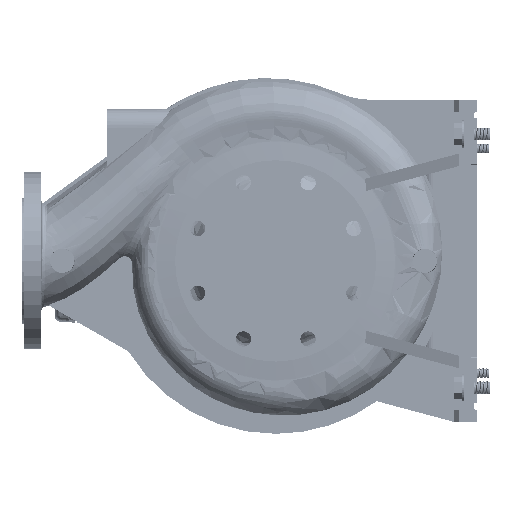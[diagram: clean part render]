
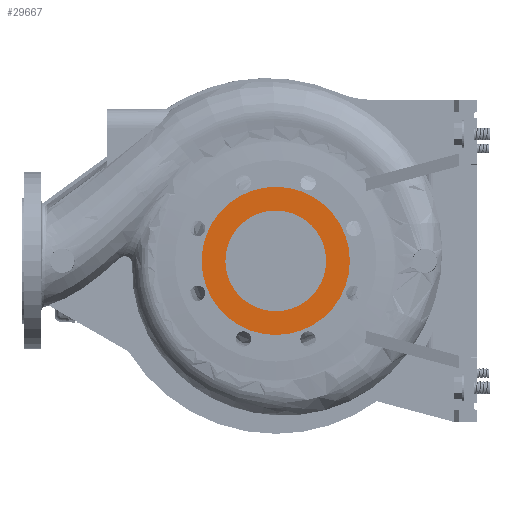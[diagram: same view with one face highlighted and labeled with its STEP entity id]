
A CAD part, left-side view. The second image highlights one B-rep face of the part: STEP entity #29667.
In plain terms, the highlighted planar face has unit normal (-1, 0, 0).
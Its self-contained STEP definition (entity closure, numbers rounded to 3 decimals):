
#665 = EDGE_CURVE ( 'NONE', #159132, #67296, #60629, .T. ) ;
#5657 = CARTESIAN_POINT ( 'NONE',  ( -140., -57.028, -25.59 ) ) ;
#12291 = FACE_BOUND ( 'NONE', #94403, .T. ) ;
#13869 = CARTESIAN_POINT ( 'NONE',  ( -140., 61.695, -12.27 ) ) ;
#15176 = CARTESIAN_POINT ( 'NONE',  ( -140., 34.947, 52.302 ) ) ;
#16495 = CARTESIAN_POINT ( 'NONE',  ( -140., 0., 62.903 ) ) ;
#17800 = CARTESIAN_POINT ( 'NONE',  ( -140., 12.213, -61.398 ) ) ;
#18944 = VERTEX_POINT ( 'NONE', #34721 ) ;
#20435 = CARTESIAN_POINT ( 'NONE',  ( -140., -56.644, -26.414 ) ) ;
#28058 = B_SPLINE_CURVE_WITH_KNOTS ( 'NONE', 3,
 ( #178261, #54028, #200976, #17800, #99309, #116765, #219756, #197057, #180891, #135513, #115462, #199655, #13869, #95393, #198354, #138138, #176968, #75348, #15176, #179574, #258478, #16495, #156880, #96697, #259800, #76658, #158193, #239773, #56632, #98001, #203582, #145984, #5657, #20435 ),
 .UNSPECIFIED., .F., .F.,
 ( 4, 1, 1, 1, 1, 1, 1, 1, 1, 1, 1, 1, 1, 1, 1, 1, 1, 1, 1, 1, 1, 1, 1, 1, 1, 1, 1, 1, 1, 1, 1, 4 ),
 ( -0.198, -0.192, -0.186, -0.179, -0.173, -0.161, -0.149, -0.142, -0.136, -0.13, -0.124, -0.112, -0.099, -0.087, -0.075, -0.062, -0.05, -0.038, -0.025, -0.013, -0.001, 0.012, 0.024, 0.036, 0.049, 0.061, 0.073, 0.086, 0.098, 0.11, 0.123, 0.125 ),
 .UNSPECIFIED. ) ;
#28385 = CARTESIAN_POINT ( 'NONE',  ( -140., 0., 0. ) ) ;
#29667 = ADVANCED_FACE ( 'NONE', ( #12291, #256873 ), #236891, .F. ) ;
#34721 = CARTESIAN_POINT ( 'NONE',  ( -140., 0., -92. ) ) ;
#35987 = AXIS2_PLACEMENT_3D ( 'NONE', #198661, #138444, #78289 ) ;
#36467 = CARTESIAN_POINT ( 'NONE',  ( -140., 0., 92. ) ) ;
#47041 = CARTESIAN_POINT ( 'NONE',  ( -140., -56.644, -26.414 ) ) ;
#48160 = CARTESIAN_POINT ( 'NONE',  ( -140., 0., -62.5 ) ) ;
#52362 = CARTESIAN_POINT ( 'NONE',  ( -140., 0., 0. ) ) ;
#52874 = VERTEX_POINT ( 'NONE', #36467 ) ;
#54028 = CARTESIAN_POINT ( 'NONE',  ( -140., 2.044, -62.5 ) ) ;
#55045 = DIRECTION ( 'NONE',  ( 1., 0., 0. ) ) ;
#56003 = EDGE_CURVE ( 'NONE', #18944, #52874, #126938, .T. ) ;
#56632 = CARTESIAN_POINT ( 'NONE',  ( -140., -61.694, 12.272 ) ) ;
#60629 = CIRCLE ( 'NONE', #210107, 62.5 ) ;
#67296 = VERTEX_POINT ( 'NONE', #48160 ) ;
#75348 = CARTESIAN_POINT ( 'NONE',  ( -140., 44.479, 44.479 ) ) ;
#76658 = CARTESIAN_POINT ( 'NONE',  ( -140., -44.479, 44.479 ) ) ;
#78289 = DIRECTION ( 'NONE',  ( 0., 0., 1. ) ) ;
#94403 = EDGE_LOOP ( 'NONE', ( #262906, #237800 ) ) ;
#95393 = CARTESIAN_POINT ( 'NONE',  ( -140., 62.903, 0. ) ) ;
#96697 = CARTESIAN_POINT ( 'NONE',  ( -140., -24.072, 58.115 ) ) ;
#98001 = CARTESIAN_POINT ( 'NONE',  ( -140., -62.903, 0. ) ) ;
#99309 = CARTESIAN_POINT ( 'NONE',  ( -140., 18.172, -59.905 ) ) ;
#102954 = DIRECTION ( 'NONE',  ( 0., 0., -1. ) ) ;
#111434 = ORIENTED_EDGE ( 'NONE', *, *, #56003, .T. ) ;
#113484 = EDGE_LOOP ( 'NONE', ( #170220, #111434 ) ) ;
#115462 = CARTESIAN_POINT ( 'NONE',  ( -140., 55.209, -29.509 ) ) ;
#116765 = CARTESIAN_POINT ( 'NONE',  ( -140., 25.878, -57.148 ) ) ;
#117038 = CIRCLE ( 'NONE', #35987, 92. ) ;
#126938 = CIRCLE ( 'NONE', #190893, 92. ) ;
#126965 = EDGE_CURVE ( 'NONE', #52874, #18944, #117038, .T. ) ;
#128634 = DIRECTION ( 'NONE',  ( 1., 0., 0. ) ) ;
#129363 = AXIS2_PLACEMENT_3D ( 'NONE', #238182, #55045, #102954 ) ;
#135513 = CARTESIAN_POINT ( 'NONE',  ( -140., 52.051, -34.779 ) ) ;
#138138 = CARTESIAN_POINT ( 'NONE',  ( -140., 58.115, 24.072 ) ) ;
#138444 = DIRECTION ( 'NONE',  ( -1., 0., 0. ) ) ;
#145984 = CARTESIAN_POINT ( 'NONE',  ( -140., -59.041, -21.017 ) ) ;
#156880 = CARTESIAN_POINT ( 'NONE',  ( -140., -12.272, 61.694 ) ) ;
#158193 = CARTESIAN_POINT ( 'NONE',  ( -140., -52.302, 34.947 ) ) ;
#159132 = VERTEX_POINT ( 'NONE', #47041 ) ;
#170220 = ORIENTED_EDGE ( 'NONE', *, *, #126965, .T. ) ;
#176968 = CARTESIAN_POINT ( 'NONE',  ( -140., 52.302, 34.947 ) ) ;
#178261 = CARTESIAN_POINT ( 'NONE',  ( -140., 0., -62.5 ) ) ;
#179574 = CARTESIAN_POINT ( 'NONE',  ( -140., 24.072, 58.115 ) ) ;
#180891 = CARTESIAN_POINT ( 'NONE',  ( -140., 48.391, -39.714 ) ) ;
#187500 = DIRECTION ( 'NONE',  ( 0., 0., 1. ) ) ;
#190893 = AXIS2_PLACEMENT_3D ( 'NONE', #52362, #212836, #231550 ) ;
#197057 = CARTESIAN_POINT ( 'NONE',  ( -140., 42.895, -45.778 ) ) ;
#198354 = CARTESIAN_POINT ( 'NONE',  ( -140., 61.694, 12.272 ) ) ;
#198661 = CARTESIAN_POINT ( 'NONE',  ( -140., 0., 0. ) ) ;
#199655 = CARTESIAN_POINT ( 'NONE',  ( -140., 58.708, -22.112 ) ) ;
#200976 = CARTESIAN_POINT ( 'NONE',  ( -140., 6.136, -62.299 ) ) ;
#203582 = CARTESIAN_POINT ( 'NONE',  ( -140., -61.695, -12.27 ) ) ;
#210107 = AXIS2_PLACEMENT_3D ( 'NONE', #28385, #128634, #187500 ) ;
#212836 = DIRECTION ( 'NONE',  ( -1., 0., 0. ) ) ;
#219756 = CARTESIAN_POINT ( 'NONE',  ( -140., 34.948, -52.303 ) ) ;
#231550 = DIRECTION ( 'NONE',  ( 0., 0., 1. ) ) ;
#236891 = PLANE ( 'NONE',  #129363 ) ;
#237800 = ORIENTED_EDGE ( 'NONE', *, *, #665, .T. ) ;
#238182 = CARTESIAN_POINT ( 'NONE',  ( -140., 91., -91. ) ) ;
#239773 = CARTESIAN_POINT ( 'NONE',  ( -140., -58.115, 24.072 ) ) ;
#239890 = EDGE_CURVE ( 'NONE', #67296, #159132, #28058, .T. ) ;
#256873 = FACE_OUTER_BOUND ( 'NONE', #113484, .T. ) ;
#258478 = CARTESIAN_POINT ( 'NONE',  ( -140., 12.272, 61.694 ) ) ;
#259800 = CARTESIAN_POINT ( 'NONE',  ( -140., -34.947, 52.302 ) ) ;
#262906 = ORIENTED_EDGE ( 'NONE', *, *, #239890, .T. ) ;
